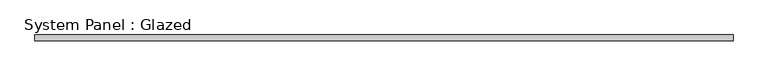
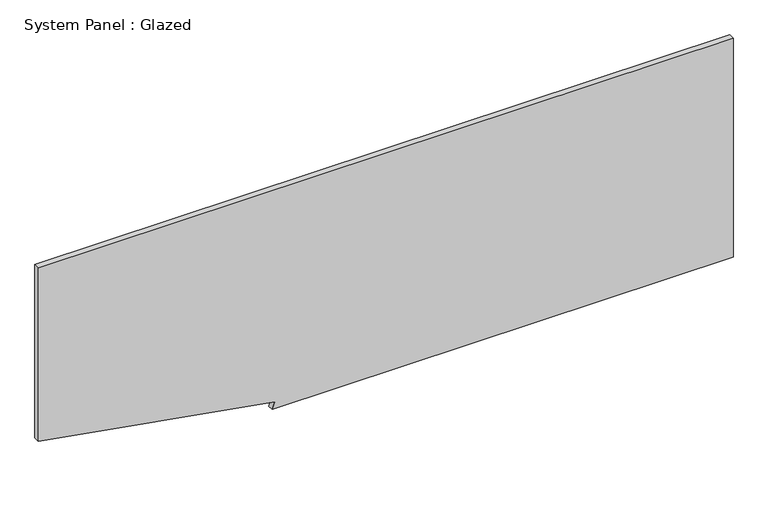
"""IFC4 building model written with IfcOpenShell, lengths in millimetres: plate geometry, System Panel : Glazed."""

from ifc_helpers import new_model, si_unit, frame, origin, place, context, project, spatial, polyline, outline, extrude, source, transform, mapped, element, save


def system_panel_glazed_e6b97be5(model_context):
    return source(origin(), model_context, "Body", "SweptSolid", [
        extrude(outline(polyline([(0.0, -491.3669542), (0.0, 1504.95), (1003.3, 1504.95), (1003.3, -1504.95), (209.2017032, -1504.95), (30.8086438, -480.4735579), (0.0, -491.3669542)])), frame((0.0, 19.05, 0.0), z_axis=(0.0, 1.0, 0.0), x_axis=(0.0, 0.0, 1.0)), (0.0, 0.0, 1.0), 25.4),
    ])


if __name__ == "__main__":
    model = new_model("IFC4")
    model_context = context("Model", 3, world=origin())
    ifc_project = project(units=[si_unit("LENGTHUNIT", "METRE", prefix="MILLI")], contexts=[model_context])
    site = spatial("IfcSite", under=ifc_project)
    building = spatial("IfcBuilding", under=site)
    placement = place(None, origin())
    system_panel_glazed_shape = system_panel_glazed_e6b97be5(model_context)
    element("IfcPlate", 1, ObjectType="System Panel : Glazed", at=placement, inside=building, context=model_context, shape_type="MappedRepresentation", body=[
        mapped(system_panel_glazed_shape, transform((0.0, 0.0, 0.0), x_axis=(1.0, 0.0, 0.0), y_axis=(0.0, 1.0, 0.0), z_axis=(0.0, 0.0, 1.0))),
    ])
    save(model, "model.ifc")
